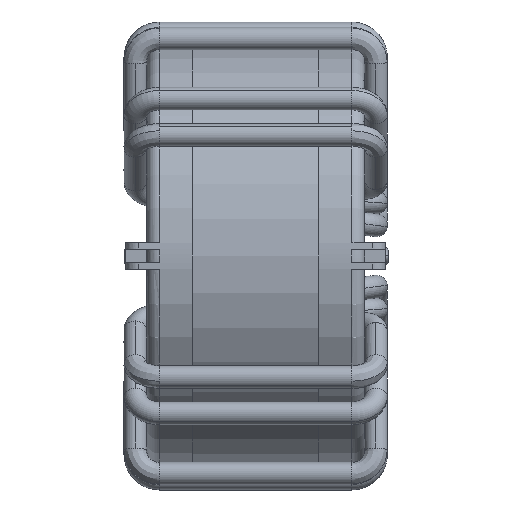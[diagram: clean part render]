
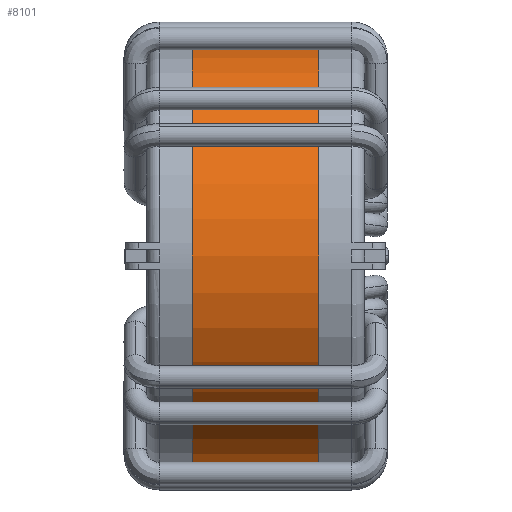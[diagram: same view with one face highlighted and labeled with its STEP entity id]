
A CAD part, left-side view. The second image highlights one B-rep face of the part: STEP entity #8101.
In plain terms, the highlighted cylindrical face has radius 16.68 mm (diameter 33.36 mm), a partial arc.
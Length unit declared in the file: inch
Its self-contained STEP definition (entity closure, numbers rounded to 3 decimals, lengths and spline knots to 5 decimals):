
#206 = CARTESIAN_POINT ( 'NONE',  ( 0., -0.19685, 0. ) ) ;
#351 = DIRECTION ( 'NONE',  ( 0., -1., 0. ) ) ;
#974 = CARTESIAN_POINT ( 'NONE',  ( 0., 0.19685, 0.65669 ) ) ;
#1460 = VERTEX_POINT ( 'NONE', #6944 ) ;
#1730 = CARTESIAN_POINT ( 'NONE',  ( 0., 0.19685, -0.65669 ) ) ;
#2206 = VERTEX_POINT ( 'NONE', #10677 ) ;
#2715 = VERTEX_POINT ( 'NONE', #4898 ) ;
#2901 = DIRECTION ( 'NONE',  ( 0., 0., -1. ) ) ;
#2950 = EDGE_CURVE ( 'NONE', #6992, #2206, #12261, .T. ) ;
#4898 = CARTESIAN_POINT ( 'NONE',  ( 0., 0.19685, 0.65669 ) ) ;
#4949 = VECTOR ( 'NONE', #7817, 39.37008 ) ;
#4988 = ORIENTED_EDGE ( 'NONE', *, *, #19277, .T. ) ;
#5381 = ORIENTED_EDGE ( 'NONE', *, *, #9356, .F. ) ;
#5784 = FACE_OUTER_BOUND ( 'NONE', #8157, .T. ) ;
#6658 = ORIENTED_EDGE ( 'NONE', *, *, #2950, .T. ) ;
#6714 = AXIS2_PLACEMENT_3D ( 'NONE', #17587, #351, #2901 ) ;
#6944 = CARTESIAN_POINT ( 'NONE',  ( 0., -0.19685, 0.65669 ) ) ;
#6992 = VERTEX_POINT ( 'NONE', #9269 ) ;
#7817 = DIRECTION ( 'NONE',  ( 0., -1., 0. ) ) ;
#8085 = EDGE_CURVE ( 'NONE', #2715, #1460, #15012, .T. ) ;
#8101 = ADVANCED_FACE ( 'NONE', ( #5784 ), #12464, .T. ) ;
#8157 = EDGE_LOOP ( 'NONE', ( #16844, #5381, #6658, #4988 ) ) ;
#8218 = CARTESIAN_POINT ( 'NONE',  ( 0., 0.19685, 0. ) ) ;
#8555 = VECTOR ( 'NONE', #11173, 39.37008 ) ;
#9075 = AXIS2_PLACEMENT_3D ( 'NONE', #8218, #12023, #14260 ) ;
#9269 = CARTESIAN_POINT ( 'NONE',  ( 0., 0.19685, -0.65669 ) ) ;
#9356 = EDGE_CURVE ( 'NONE', #6992, #2715, #17603, .T. ) ;
#10630 = AXIS2_PLACEMENT_3D ( 'NONE', #206, #19636, #10716 ) ;
#10677 = CARTESIAN_POINT ( 'NONE',  ( 0., -0.19685, -0.65669 ) ) ;
#10716 = DIRECTION ( 'NONE',  ( 0., 0., 1. ) ) ;
#11173 = DIRECTION ( 'NONE',  ( 0., -1., 0. ) ) ;
#12023 = DIRECTION ( 'NONE',  ( 0., 1., 0. ) ) ;
#12261 = LINE ( 'NONE', #1730, #4949 ) ;
#12464 = CYLINDRICAL_SURFACE ( 'NONE', #6714, 0.65669 ) ;
#14260 = DIRECTION ( 'NONE',  ( 0., 0., 1. ) ) ;
#15012 = LINE ( 'NONE', #974, #8555 ) ;
#16618 = CIRCLE ( 'NONE', #10630, 0.65669 ) ;
#16844 = ORIENTED_EDGE ( 'NONE', *, *, #8085, .F. ) ;
#17587 = CARTESIAN_POINT ( 'NONE',  ( 0., 0.19685, 0. ) ) ;
#17603 = CIRCLE ( 'NONE', #9075, 0.65669 ) ;
#19277 = EDGE_CURVE ( 'NONE', #2206, #1460, #16618, .T. ) ;
#19636 = DIRECTION ( 'NONE',  ( 0., 1., 0. ) ) ;
